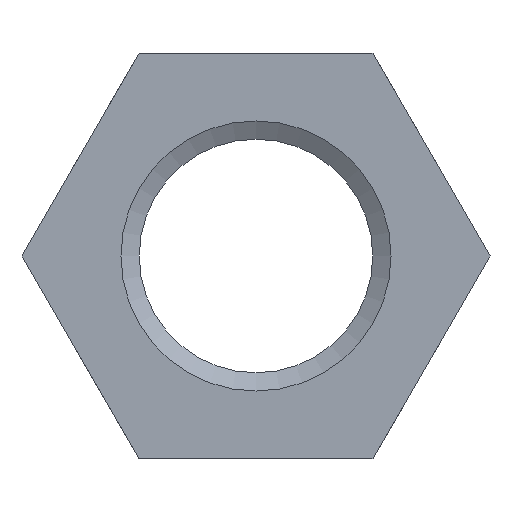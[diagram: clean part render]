
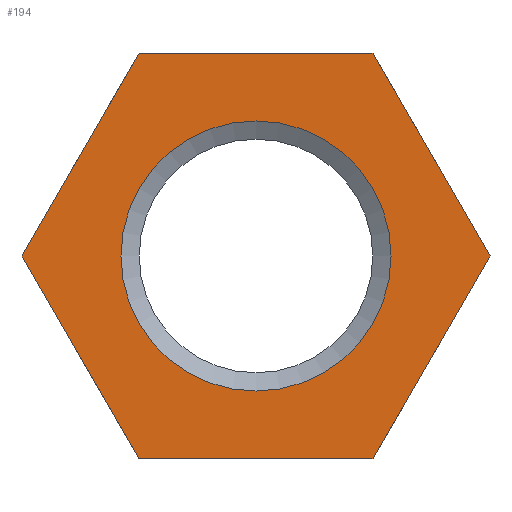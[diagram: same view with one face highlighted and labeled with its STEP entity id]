
A CAD part, left-side view. The second image highlights one B-rep face of the part: STEP entity #194.
In plain terms, the highlighted planar face has unit normal (-1, 0, 0).
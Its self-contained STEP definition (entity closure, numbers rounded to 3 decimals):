
#16=LINE('',#306,#28);
#18=LINE('',#310,#30);
#20=LINE('',#314,#32);
#22=LINE('',#318,#34);
#24=LINE('',#322,#36);
#26=LINE('',#325,#38);
#28=VECTOR('',#238,20.79);
#30=VECTOR('',#242,20.79);
#32=VECTOR('',#246,20.79);
#34=VECTOR('',#250,20.79);
#36=VECTOR('',#254,20.79);
#38=VECTOR('',#258,20.79);
#45=PLANE('',#213);
#52=FACE_BOUND('',#86,.T.);
#57=CIRCLE('',#204,12.);
#69=FACE_OUTER_BOUND('',#85,.T.);
#85=EDGE_LOOP('',(#172,#173,#174,#175,#176,#177));
#86=EDGE_LOOP('',(#178));
#104=VERTEX_POINT('',#297);
#106=VERTEX_POINT('',#303);
#107=VERTEX_POINT('',#305);
#108=VERTEX_POINT('',#309);
#109=VERTEX_POINT('',#313);
#110=VERTEX_POINT('',#317);
#111=VERTEX_POINT('',#321);
#121=EDGE_CURVE('',#104,#104,#57,.T.);
#124=EDGE_CURVE('',#107,#106,#16,.T.);
#126=EDGE_CURVE('',#108,#107,#18,.T.);
#128=EDGE_CURVE('',#109,#108,#20,.T.);
#130=EDGE_CURVE('',#110,#109,#22,.T.);
#132=EDGE_CURVE('',#111,#110,#24,.T.);
#134=EDGE_CURVE('',#106,#111,#26,.T.);
#172=ORIENTED_EDGE('',*,*,#128,.T.);
#173=ORIENTED_EDGE('',*,*,#126,.T.);
#174=ORIENTED_EDGE('',*,*,#124,.T.);
#175=ORIENTED_EDGE('',*,*,#134,.T.);
#176=ORIENTED_EDGE('',*,*,#132,.T.);
#177=ORIENTED_EDGE('',*,*,#130,.T.);
#178=ORIENTED_EDGE('',*,*,#121,.T.);
#194=ADVANCED_FACE('',(#69,#52),#45,.T.);
#204=AXIS2_PLACEMENT_3D('',#298,#229,#230);
#213=AXIS2_PLACEMENT_3D('',#326,#259,#260);
#229=DIRECTION('center_axis',(1.,0.,0.));
#230=DIRECTION('ref_axis',(0.,1.,0.));
#238=DIRECTION('',(0.,-0.5,-0.866));
#242=DIRECTION('',(0.,0.5,-0.866));
#246=DIRECTION('',(0.,1.,0.));
#250=DIRECTION('',(0.,0.5,0.866));
#254=DIRECTION('',(0.,-0.5,0.866));
#258=DIRECTION('',(0.,-1.,0.));
#259=DIRECTION('center_axis',(-1.,0.,0.));
#260=DIRECTION('ref_axis',(0.,-1.,0.));
#297=CARTESIAN_POINT('',(-115.382,103.769,-93.926));
#298=CARTESIAN_POINT('Origin',(-115.382,103.769,-105.926));
#303=CARTESIAN_POINT('',(-115.382,114.164,-123.931));
#305=CARTESIAN_POINT('',(-115.382,124.559,-105.926));
#306=CARTESIAN_POINT('',(-115.382,124.559,-105.926));
#309=CARTESIAN_POINT('',(-115.382,114.164,-87.922));
#310=CARTESIAN_POINT('',(-115.382,114.164,-87.922));
#313=CARTESIAN_POINT('',(-115.382,93.374,-87.922));
#314=CARTESIAN_POINT('',(-115.382,93.374,-87.922));
#317=CARTESIAN_POINT('',(-115.382,82.979,-105.926));
#318=CARTESIAN_POINT('',(-115.382,82.979,-105.926));
#321=CARTESIAN_POINT('',(-115.382,93.374,-123.931));
#322=CARTESIAN_POINT('',(-115.382,93.374,-123.931));
#325=CARTESIAN_POINT('',(-115.382,114.164,-123.931));
#326=CARTESIAN_POINT('Origin',(-115.382,103.769,-90.343));
